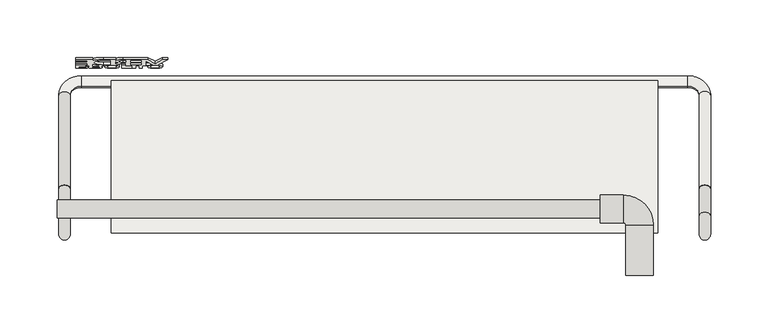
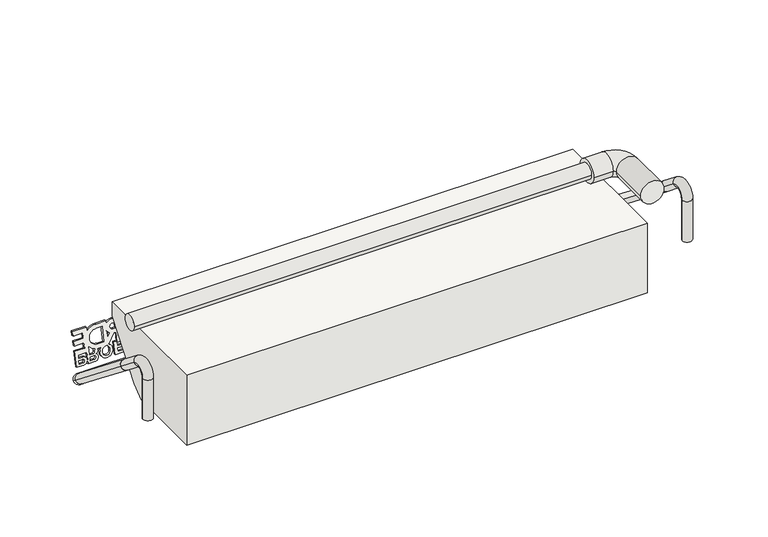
"""IFC4 building model written with IfcOpenShell, lengths in millimetres: covering geometry, panel VP Modulo prova ultima texture : panel VP Modulo prova ultima texture."""

from ifc_helpers import new_model, si_unit, point, frame, frame_2d, origin, place, context, project, spatial, polyline, circle_curve, ellipse_curve, trimmed, segment, composite_curve, outline, extrude, source, transform, mapped, element, save
from ifc_brep_helpers import plane_surface, cylinder_surface, revolved_surface, advanced_brep


def covering_480ba4d3(model_context):
    return source(origin(), model_context, "Body", "SolidModel", [
        extrude(outline(composite_curve([segment(polyline([(34.7220757, 0.0), (58.7996813, 0.0)]), True, "CONTINUOUS"), segment(trimmed(circle_curve(frame_2d((65.064279, 0.602523)), 6.293506), [point((58.7996813, 0.0))], [point((63.4156115, 6.6762462))], False, "CARTESIAN"), True, "CONTINUOUS"), segment(trimmed(circle_curve(frame_2d((65.6666707, 0.6823428)), 6.4026671), [point((63.4156115, 6.6762462))], [point((68.2653756, -5.1692278))], False, "CARTESIAN"), True, "CONTINUOUS"), segment(trimmed(circle_curve(frame_2d((65.2033193, 0.2002614)), 6.1812298), [point((68.2653756, -5.1692278))], [point((64.2093266, -5.9005239))], False, "CARTESIAN"), True, "CONTINUOUS"), segment(polyline([(64.2093266, -5.9005239), (66.3168223, -11.0476864), (75.8016953, -7.1641235), (76.862281, -9.7544046), (66.3136896, -14.073505), (67.4636632, -16.8820993), (78.0122545, -12.5629989), (79.0728401, -15.1532801), (68.5242488, -19.4723804), (70.7348079, -24.8712559), (61.6931831, -28.5733317), (62.6270622, -30.854156), (73.074875, -33.0832316)]), True, "CONTINUOUS"), segment(trimmed(circle_curve(frame_2d((79.2445531, -34.0648779)), 6.247284), [point((73.074875, -33.0832316))], [point((77.6263487, -28.0308102))], False, "CARTESIAN"), True, "CONTINUOUS"), segment(trimmed(circle_curve(frame_2d((79.8774079, -34.0247137)), 6.4026671), [point((77.6263487, -28.0308102))], [point((82.4790997, -39.8749568))], False, "CARTESIAN"), True, "CONTINUOUS"), segment(trimmed(circle_curve(frame_2d((79.4067188, -34.4842118)), 6.2048092), [point((82.4790997, -39.8749568))], [point((77.0112198, -40.2079555))], False, "CARTESIAN"), True, "CONTINUOUS"), segment(polyline([(77.0112198, -40.2079555), (78.1993615, -43.1097685)]), True, "CONTINUOUS"), segment(trimmed(circle_curve(frame_2d((66.5130173, -47.6019204)), 12.5199867), [point((78.1993615, -43.1097685))], [point((78.4709527, -43.8927629))], False, "CARTESIAN"), True, "CONTINUOUS"), segment(polyline([(78.4709527, -43.8927629), (79.5384706, -43.4513167)]), True, "CONTINUOUS"), segment(trimmed(circle_curve(frame_2d((81.1236564, -46.5289179)), 3.4618554), [point((79.5384706, -43.4513167))], [point((83.2640667, -43.8080567))], False, "CARTESIAN"), True, "CONTINUOUS"), segment(trimmed(circle_curve(frame_2d((86.9930545, -44.5041076)), 3.7933939), [point((83.2640667, -43.8080567))], [point((90.5427254, -43.1663205))], False, "CARTESIAN"), True, "CONTINUOUS"), segment(polyline([(90.5427254, -43.1663205), (93.2835774, -49.8603365), (82.734986, -54.1794369), (86.0955187, -62.3869066), (89.2825225, -61.0819941), (87.602256, -56.9782588)]), True, "CONTINUOUS"), segment(trimmed(circle_curve(frame_2d((91.2496311, -55.4763574)), 3.9444966), [point((87.602256, -56.9782588))], [point((87.6394876, -53.8870441))], False, "CARTESIAN"), True, "CONTINUOUS"), segment(trimmed(circle_curve(frame_2d((91.0795377, -55.4029609)), 3.7592483), [point((87.6394876, -53.8870441))], [point((89.8068057, -51.865716))], False, "CARTESIAN"), True, "CONTINUOUS"), segment(trimmed(circle_curve(frame_2d((91.3826275, -55.3791794)), 3.8506675), [point((89.8068057, -51.865716))], [point((94.9638437, -53.9640714))], False, "CARTESIAN"), True, "CONTINUOUS"), segment(polyline([(94.9638437, -53.9640714), (97.7046956, -60.6580874), (83.1186527, -66.6303145), (79.3291228, -57.3750995), (74.3249247, -59.4240587), (78.1144546, -68.6792738), (74.077003, -70.3324005), (70.2874731, -61.0771855), (65.283275, -63.1261447), (69.0728049, -72.3813598), (65.0353533, -74.0344866), (59.5536495, -60.6464545), (63.573194, -59.0006598)]), True, "CONTINUOUS"), segment(trimmed(circle_curve(frame_2d((67.4307018, -47.253167)), 12.364625), [point((63.573194, -59.0006598))], [point((55.9786182, -51.9151121))], False, "CARTESIAN"), True, "CONTINUOUS"), segment(polyline([(55.9786182, -51.9151121), (51.9745896, -42.1360244), (54.8949193, -40.940301)]), True, "CONTINUOUS"), segment(trimmed(circle_curve(frame_2d((56.8950264, -33.2916253)), 7.9058629), [point((54.8949193, -40.940301))], [point((49.6285766, -36.4063284))], False, "CARTESIAN"), True, "CONTINUOUS"), segment(polyline([(49.6285766, -36.4063284), (41.3068641, -16.0821088), (53.1289126, -4.4511801), (36.5446028, -4.4511801), (34.7220757, 0.0)]), True, "CONTINUOUS")], self_intersect=False), holes=[composite_curve([segment(polyline([(91.3698144, -60.2273564), (94.5568181, -58.9224439), (93.0429627, -55.2251363)]), True, "CONTINUOUS"), segment(trimmed(circle_curve(frame_2d((91.4494608, -55.8775925)), 1.7219023), [point((93.0429627, -55.2251363))], [point((89.8559589, -56.5300488))], True, "CARTESIAN"), True, "CONTINUOUS"), segment(polyline([(89.8559589, -56.5300488), (91.3698144, -60.2273564)]), True, "CONTINUOUS")], self_intersect=False), composite_curve([segment(polyline([(77.6536646, -53.2354383), (84.8614042, -50.2842432), (83.4804082, -46.9114199)]), True, "CONTINUOUS"), segment(trimmed(circle_curve(frame_2d((82.0055188, -47.9798171)), 1.8212006), [point((83.4804082, -46.9114199))], [point((81.4459172, -46.2467223))], True, "CARTESIAN"), True, "CONTINUOUS"), segment(polyline([(81.4459172, -46.2467223), (79.005401, -46.7813864)]), True, "CONTINUOUS"), segment(trimmed(circle_curve(frame_2d((66.800009, -47.5936694)), 12.2323913), [point((79.005401, -46.7813864))], [point((77.6536646, -53.2354383))], False, "CARTESIAN"), True, "CONTINUOUS")], self_intersect=False), composite_curve([segment(polyline([(80.0469884, -37.8463889), (81.818283, -37.1211357)]), True, "CONTINUOUS"), segment(trimmed(circle_curve(frame_2d((80.3714599, -33.8224141)), 3.6020635), [point((81.818283, -37.1211357))], [point((79.0874462, -30.4569765))], True, "CARTESIAN"), True, "CONTINUOUS"), segment(polyline([(79.0874462, -30.4569765), (77.318043, -31.1814552)]), True, "CONTINUOUS"), segment(trimmed(circle_curve(frame_2d((78.7640582, -34.4805346)), 3.6020668), [point((77.318043, -31.1814552))], [point((80.0469884, -37.8463889))], True, "CARTESIAN"), True, "CONTINUOUS")], self_intersect=False), composite_curve([segment(polyline([(64.8767089, 4.25008), (63.1073057, 3.5256013)]), True, "CONTINUOUS"), segment(trimmed(circle_curve(frame_2d((64.5533209, 0.2265218)), 3.6020668), [point((63.1073057, 3.5256013))], [point((65.8362511, -3.1393325))], True, "CARTESIAN"), True, "CONTINUOUS"), segment(polyline([(65.8362511, -3.1393325), (67.6075457, -2.4140793)]), True, "CONTINUOUS"), segment(trimmed(circle_curve(frame_2d((66.1607227, 0.8846423)), 3.6020635), [point((67.6075457, -2.4140793))], [point((64.8767089, 4.25008))], True, "CARTESIAN"), True, "CONTINUOUS")], self_intersect=False), composite_curve([segment(polyline([(49.3862172, -14.3776132), (62.966359, -8.8172503), (61.7031824, -5.7321785), (62.543491, -5.3881158)]), True, "CONTINUOUS"), segment(trimmed(circle_curve(frame_2d((65.2914897, 0.489271)), 6.4880792), [point((62.543491, -5.3881158))], [point((60.2929855, -3.647168))], False, "CARTESIAN"), True, "CONTINUOUS"), segment(polyline([(60.2929855, -3.647168), (49.3862172, -14.3776132)]), True, "CONTINUOUS")], self_intersect=False), polyline([(47.5988019, -19.9351412), (50.9593346, -28.1426109), (55.9635327, -26.0936517), (52.603, -17.8861819), (47.5988019, -19.9351412)]), polyline([(60.0009843, -24.4405249), (65.0051824, -22.3915657), (61.6446497, -14.1840959), (56.6404516, -16.2330552), (60.0009843, -24.4405249)]), composite_curve([segment(polyline([(52.6514049, -32.2754703), (53.692025, -34.8169896)]), True, "CONTINUOUS"), segment(trimmed(circle_curve(frame_2d((56.226554, -33.8697215)), 2.7057631), [point((53.692025, -34.8169896))], [point((58.6823172, -32.7337722))], True, "CARTESIAN"), True, "CONTINUOUS"), segment(polyline([(58.6823172, -32.7337722), (57.6557066, -30.2264686), (52.6514049, -32.2754703)]), True, "CONTINUOUS")], self_intersect=False), composite_curve([segment(polyline([(62.0018449, -38.0303841), (66.4600603, -36.2049764), (63.0935891, -35.4866797)]), True, "CONTINUOUS"), segment(trimmed(circle_curve(frame_2d((53.8245829, -33.01461)), 9.5929977), [point((63.0935891, -35.4866797))], [point((62.0018449, -38.0303841))], False, "CARTESIAN"), True, "CONTINUOUS")], self_intersect=False), composite_curve([segment(polyline([(57.7042151, -44.6157146), (60.0160697, -50.2619853)]), True, "CONTINUOUS"), segment(trimmed(circle_curve(frame_2d((67.1061304, -47.5504315)), 7.5908816), [point((60.0160697, -50.2619853))], [point((74.0619175, -44.5109401))], True, "CARTESIAN"), True, "CONTINUOUS"), segment(polyline([(74.0619175, -44.5109401), (71.7500629, -38.8646693), (57.7042151, -44.6157146)]), True, "CONTINUOUS")], self_intersect=False), composite_curve([segment(polyline([(86.9486961, -49.4296056), (90.1356999, -48.124693), (88.6218444, -44.4273854)]), True, "CONTINUOUS"), segment(trimmed(circle_curve(frame_2d((87.0283426, -45.0798417)), 1.7219023), [point((88.6218444, -44.4273854))], [point((85.4348406, -45.7322979))], True, "CARTESIAN"), True, "CONTINUOUS"), segment(polyline([(85.4348406, -45.7322979), (86.9486961, -49.4296056)]), True, "CONTINUOUS")], self_intersect=False)]), frame((-175.3240629, 210.3688908, 531.9514609), z_axis=(0.0, -0.9769248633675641, 0.21358326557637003), x_axis=(-0.3789159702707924, -0.19765659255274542, -0.9040766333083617)), (0.0, 0.0, 1.0), 2.0),
        extrude(outline(polyline([(76.2116946, -23.2064962), (79.3986984, -21.9015837), (77.1881392, -16.5027082), (79.2754311, -15.6480706), (82.5465758, -23.6372272), (70.9744162, -28.3754256), (69.9138306, -25.7851445), (74.1244027, -24.0611338), (71.9138436, -18.6622584), (74.0011355, -17.8076208), (76.2116946, -23.2064962)])), frame((-175.3240629, 210.3688908, 531.9514609), z_axis=(0.0, -0.9769248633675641, 0.21358326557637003), x_axis=(-0.3789159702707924, -0.19765659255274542, -0.9040766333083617)), (0.0, 0.0, 1.0), 2.0),
        advanced_brep(
        [(-284.4808119, 63.5015434, 595.6614448), (-284.4808119, 79.5015434, 595.6614448), (187.7808119, 63.5015434, 595.6614448), (187.7808119, 79.5015434, 595.6614448), (187.7808119, 59.5015434, 595.6614448), (187.7808119, 83.5015434, 595.6614448), (207.7808119, 59.5015434, 595.6614448), (207.7808119, 83.5015434, 595.6614448), (209.7808119, 57.5015434, 595.6614448), (233.7808119, 57.5015434, 595.6614448), (209.7808119, 13.5015434, 595.6614448), (233.7808119, 13.5015434, 595.6614448)],
        [
            (0, 1, circle_curve(frame((-284.4808119, 71.5015434, 595.6614448), z_axis=(-1.0, 0.0, 0.0), x_axis=(0.0, 1.0, 0.0)), 8.0)),
            (1, 0, circle_curve(frame((-284.4808119, 71.5015434, 595.6614448), z_axis=(-1.0, 0.0, 0.0), x_axis=(0.0, 1.0, 0.0)), 8.0)),
            (0, 2),
            (2, 3, circle_curve(frame((187.7808119, 71.5015434, 595.6614448), z_axis=(-1.0, 0.0, 0.0), x_axis=(0.0, 1.0, 0.0)), 8.0)),
            (3, 1),
            (3, 2, circle_curve(frame((187.7808119, 71.5015434, 595.6614448), z_axis=(-1.0, 0.0, 0.0), x_axis=(0.0, 1.0, 0.0)), 8.0)),
            (4, 5, circle_curve(frame((187.7808119, 71.5015434, 595.6614448), z_axis=(-1.0, 0.0, 0.0), x_axis=(0.0, 1.0, 0.0)), 12.0)),
            (5, 4, circle_curve(frame((187.7808119, 71.5015434, 595.6614448), z_axis=(-1.0, 0.0, 0.0), x_axis=(0.0, 1.0, 0.0)), 12.0)),
            (4, 6),
            (6, 7, circle_curve(frame((207.7808119, 71.5015434, 595.6614448), z_axis=(-1.0, 0.0, 0.0), x_axis=(0.0, 1.0, 0.0)), 12.0)),
            (7, 5),
            (7, 6, circle_curve(frame((207.7808119, 71.5015434, 595.6614448), z_axis=(-1.0, 0.0, 0.0), x_axis=(0.0, 1.0, 0.0)), 12.0)),
            (6, 8, circle_curve(frame((207.7808119, 57.5015434, 595.6614448), z_axis=(0.0, 0.0, -1.0), x_axis=(0.0, 1.0, 0.0)), 2.0)),
            (8, 9, circle_curve(frame((221.7808119, 57.5015434, 595.6614448), z_axis=(0.0, 1.0, 0.0), x_axis=(1.0, 0.0, 0.0)), 12.0)),
            (9, 7, circle_curve(frame((207.7808119, 57.5015434, 595.6614448), z_axis=(0.0, 0.0, 1.0), x_axis=(0.0, 1.0, 0.0)), 26.0)),
            (9, 8, circle_curve(frame((221.7808119, 57.5015434, 595.6614448), z_axis=(0.0, 1.0, 0.0), x_axis=(1.0, 0.0, 0.0)), 12.0)),
            (10, 11, circle_curve(frame((221.7808119, 13.5015434, 595.6614448), z_axis=(0.0, -1.0, 0.0), x_axis=(1.0, 0.0, 0.0)), 12.0)),
            (11, 10, circle_curve(frame((221.7808119, 13.5015434, 595.6614448), z_axis=(0.0, -1.0, 0.0), x_axis=(1.0, 0.0, 0.0)), 12.0)),
            (8, 10),
            (11, 9),
        ],
        [
            plane_surface(frame((-284.4808119, 63.5015434, 595.6614448), z_axis=(-1.0, 0.0, 0.0), x_axis=(0.0, 0.0, 1.0))),
            cylinder_surface(frame((-284.4808119, 71.5015434, 595.6614448), z_axis=(-1.0, 0.0, 0.0), x_axis=(0.0, 1.0, 0.0)), 8.0),
            plane_surface(frame((187.7808119, 63.5015434, 595.6614448), z_axis=(-1.0, 0.0, 0.0), x_axis=(0.0, 0.0, 1.0))),
            cylinder_surface(frame((187.7808119, 71.5015434, 595.6614448), z_axis=(-1.0, 0.0, 0.0), x_axis=(0.0, 1.0, 0.0)), 12.0),
            revolved_surface(trimmed(ellipse_curve(frame((207.7808119, 71.5015434, 595.6614448), z_axis=(-1.0, 0.0, 0.0), x_axis=(0.0, 1.0, 0.0)), 12.0, 12.0), [point((207.7808119, 59.5015434, 595.6614448))], [point((207.7808119, 83.5015434, 595.6614448))], True, "CARTESIAN"), (207.7808119, 57.5015434, 595.6614448), (0.0, 0.0, -1.0)),
            revolved_surface(trimmed(ellipse_curve(frame((207.7808119, 71.5015434, 595.6614448), z_axis=(-1.0, 0.0, 0.0), x_axis=(0.0, 1.0, 0.0)), 12.0, 12.0), [point((207.7808119, 83.5015434, 595.6614448))], [point((207.7808119, 59.5015434, 595.6614448))], True, "CARTESIAN"), (207.7808119, 57.5015434, 595.6614448), (0.0, 0.0, -1.0)),
            plane_surface(frame((213.7808119, 13.5015434, 595.6614448), z_axis=(0.0, -1.0, 0.0), x_axis=(0.0, 0.0, 1.0))),
            cylinder_surface(frame((221.7808119, 57.5015434, 595.6614448), z_axis=(0.0, 1.0, 0.0), x_axis=(1.0, 0.0, 0.0)), 12.0),
        ],
        [
            (0, [[1, 2]]),
            (1, [[-1, 3, 4, 5]]),
            (1, [[-2, -5, 6, -3]]),
            (2, [[7, 8], [-4, -6]]),
            (3, [[-7, 9, 10, 11]]),
            (3, [[-8, -11, 12, -9]]),
            (4, [[-10, 13, 14, 15]]),
            (5, [[-12, -15, 16, -13]]),
            (6, [[17, 18]]),
            (7, [[-14, 19, -18, 20]]),
            (7, [[-16, -20, -17, -19]]),
        ],
    ),
        advanced_brep(
        [(283.4808119, 89.2250572, 536.4633866), (273.4808119, 89.2251428, 536.4634946), (283.4808119, 170.6491384, 471.9435416), (273.4808119, 170.6492239, 471.9436496), (263.4808119, 178.4869122, 465.7331229), (263.4808119, 186.324515, 459.5224882), (-263.4808119, 186.324515, 459.5224882), (-263.4808119, 178.4869122, 465.7331229), (-273.4808119, 170.6492239, 471.9436496), (-283.4808119, 170.6491384, 471.9435416), (-283.4808119, 89.2250494, 536.4633928), (-273.4808119, 89.225135, 536.4635008)],
        [
            (0, 1, circle_curve(frame((278.4808119, 89.2250572, 536.4633866), z_axis=(0.0, -0.7837688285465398, 0.6210526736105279), x_axis=(1.0, 0.0, 0.0)), 5.0)),
            (1, 0, circle_curve(frame((278.4808119, 89.2250572, 536.4633866), z_axis=(0.0, -0.7837688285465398, 0.6210526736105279), x_axis=(1.0, 0.0, 0.0)), 5.0)),
            (0, 2),
            (2, 3, circle_curve(frame((278.4808119, 170.6491384, 471.9435416), z_axis=(0.0, -0.7837688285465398, 0.6210526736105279), x_axis=(1.0, 0.0, 0.0)), 5.0)),
            (3, 1),
            (3, 2, circle_curve(frame((278.4808119, 170.6491384, 471.9435416), z_axis=(0.0, -0.7837688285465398, 0.6210526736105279), x_axis=(1.0, 0.0, 0.0)), 5.0)),
            (4, 3, circle_curve(frame((263.4808119, 170.6492239, 471.9436496), z_axis=(0.0, -0.6210526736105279, -0.7837688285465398), x_axis=(1.0, 0.0, 0.0)), 10.0)),
            (2, 5, circle_curve(frame((263.4808119, 170.6491384, 471.9435416), z_axis=(0.0, 0.6210526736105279, 0.7837688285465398), x_axis=(1.0, 0.0, 0.0)), 20.0)),
            (5, 4, circle_curve(frame((263.4808119, 182.4056708, 462.6277515), z_axis=(1.0, 0.0, 0.0), x_axis=(0.0, 0.7837688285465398, -0.6210526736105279)), 5.0)),
            (4, 5, circle_curve(frame((263.4808119, 182.4056708, 462.6277515), z_axis=(1.0, 0.0, 0.0), x_axis=(0.0, 0.7837688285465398, -0.6210526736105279)), 5.0)),
            (5, 6),
            (6, 7, circle_curve(frame((-263.4808119, 182.4056708, 462.6277515), z_axis=(1.0, 0.0, 0.0), x_axis=(0.0, 0.7837688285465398, -0.6210526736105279)), 5.0)),
            (7, 4),
            (7, 6, circle_curve(frame((-263.4808119, 182.4056708, 462.6277515), z_axis=(1.0, 0.0, 0.0), x_axis=(0.0, 0.7837688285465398, -0.6210526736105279)), 5.0)),
            (8, 7, circle_curve(frame((-263.4808119, 170.6492239, 471.9436496), z_axis=(0.0, -0.6210526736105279, -0.7837688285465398), x_axis=(0.0, 0.7837688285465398, -0.6210526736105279)), 10.0)),
            (6, 9, circle_curve(frame((-263.4808119, 170.6491384, 471.9435416), z_axis=(0.0, 0.6210526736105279, 0.7837688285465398), x_axis=(0.0, 0.7837688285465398, -0.6210526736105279)), 20.0)),
            (9, 8, circle_curve(frame((-278.4808119, 170.6491384, 471.9435416), z_axis=(0.0, 0.7837688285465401, -0.6210526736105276), x_axis=(-1.0000000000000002, 0.0, 0.0)), 5.0)),
            (8, 9, circle_curve(frame((-278.4808119, 170.6491384, 471.9435416), z_axis=(0.0, 0.7837688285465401, -0.6210526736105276), x_axis=(-1.0000000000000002, 0.0, 0.0)), 5.0)),
            (10, 11, circle_curve(frame((-278.4808119, 89.2250494, 536.4633928), z_axis=(0.0, -0.7837688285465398, 0.6210526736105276), x_axis=(-1.0, 0.0, 0.0)), 5.0)),
            (11, 10, circle_curve(frame((-278.4808119, 89.2250494, 536.4633928), z_axis=(0.0, -0.7837688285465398, 0.6210526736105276), x_axis=(-1.0, 0.0, 0.0)), 5.0)),
            (9, 10),
            (11, 8),
        ],
        [
            plane_surface(frame((273.4808119, 92.3304015, 540.3823329), z_axis=(0.0, -0.7837688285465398, 0.6210526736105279), x_axis=(0.0, -0.6210526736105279, -0.7837688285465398))),
            cylinder_surface(frame((278.4808119, 89.2250572, 536.4633866), z_axis=(0.0, -0.7837688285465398, 0.6210526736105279), x_axis=(1.0, 0.0, 0.0)), 5.0),
            revolved_surface(trimmed(ellipse_curve(frame((278.4808119, 170.6491384, 471.9435416), z_axis=(0.0, -0.7837688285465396, 0.6210526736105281), x_axis=(1.0, 0.0, 0.0)), 5.0, 5.0), [point((283.4808119, 170.6491384, 471.9435416))], [point((273.4808119, 170.6492239, 471.9436496))], True, "CARTESIAN"), (263.4808119, 173.7544827, 475.8624879), (0.0, 0.6210526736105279, 0.7837688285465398)),
            revolved_surface(trimmed(ellipse_curve(frame((278.4808119, 170.6491384, 471.9435416), z_axis=(0.0, -0.7837688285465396, 0.6210526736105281), x_axis=(1.0, 0.0, 0.0)), 5.0, 5.0), [point((273.4808119, 170.6492239, 471.9436496))], [point((283.4808119, 170.6491384, 471.9435416))], True, "CARTESIAN"), (263.4808119, 173.7544827, 475.8624879), (0.0, 0.6210526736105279, 0.7837688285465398)),
            cylinder_surface(frame((263.4808119, 182.4056708, 462.6277515), z_axis=(1.0000000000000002, 0.0, 0.0), x_axis=(0.0, 0.7837688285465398, -0.6210526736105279)), 5.0),
            revolved_surface(trimmed(ellipse_curve(frame((-263.4808119, 182.4056708, 462.6277515), z_axis=(1.0000000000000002, 0.0, 0.0), x_axis=(0.0, 0.7837688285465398, -0.6210526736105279)), 5.0, 5.0), [point((-263.4808119, 186.324515, 459.5224882))], [point((-263.4808119, 178.4869122, 465.7331229))], True, "CARTESIAN"), (-263.4808119, 173.7544827, 475.8624879), (0.0, 0.6210526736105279, 0.7837688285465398)),
            revolved_surface(trimmed(ellipse_curve(frame((-263.4808119, 182.4056708, 462.6277515), z_axis=(1.0000000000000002, 0.0, 0.0), x_axis=(0.0, 0.7837688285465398, -0.6210526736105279)), 5.0, 5.0), [point((-263.4808119, 178.4869122, 465.7331229))], [point((-263.4808119, 186.324515, 459.5224882))], True, "CARTESIAN"), (-263.4808119, 173.7544827, 475.8624879), (0.0, 0.6210526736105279, 0.7837688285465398)),
            plane_surface(frame((-273.4808119, 92.3303937, 540.3823391), z_axis=(0.0, -0.7837688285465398, 0.6210526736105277), x_axis=(0.0, -0.6210526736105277, -0.7837688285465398))),
            cylinder_surface(frame((-278.4808119, 170.6491384, 471.9435416), z_axis=(0.0, 0.7837688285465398, -0.6210526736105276), x_axis=(-1.0, 0.0, 0.0)), 5.0),
        ],
        [
            (0, [[1, 2]]),
            (1, [[-1, 3, 4, 5]]),
            (1, [[-2, -5, 6, -3]]),
            (2, [[7, -4, 8, 9]]),
            (3, [[-8, -6, -7, 10]]),
            (4, [[-9, 11, 12, 13]]),
            (4, [[-10, -13, 14, -11]]),
            (5, [[15, -12, 16, 17]]),
            (6, [[-16, -14, -15, 18]]),
            (7, [[19, 20]]),
            (8, [[-17, 21, -20, 22]]),
            (8, [[-18, -22, -19, -21]]),
        ],
    ),
        advanced_brep(
        [(-273.4808119, 89.225135, 536.4635008), (-283.4808119, 89.225135, 536.4635008), (-283.4808119, 65.7120701, 555.095081), (-273.4808119, 65.7120701, 555.095081), (-273.4808119, 49.5015434, 547.2573927), (-283.4808119, 49.5015434, 547.2573927), (-273.4808119, 49.5015434, 502.9552474), (-283.4808119, 49.5015434, 502.9552474)],
        [
            (0, 1, circle_curve(frame((-278.4808119, 89.225135, 536.4635008), z_axis=(0.0, 0.7837688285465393, -0.6210526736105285), x_axis=(-1.0, 0.0, 0.0)), 5.0)),
            (1, 0, circle_curve(frame((-278.4808119, 89.225135, 536.4635008), z_axis=(0.0, 0.7837688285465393, -0.6210526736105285), x_axis=(-1.0, 0.0, 0.0)), 5.0)),
            (1, 2),
            (2, 3, circle_curve(frame((-278.4808119, 65.7120701, 555.095081), z_axis=(0.0, 0.7837688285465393, -0.6210526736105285), x_axis=(-1.0, 0.0, 0.0)), 5.0)),
            (3, 0),
            (3, 2, circle_curve(frame((-278.4808119, 65.7120701, 555.095081), z_axis=(0.0, 0.7837688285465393, -0.6210526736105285), x_axis=(-1.0, 0.0, 0.0)), 5.0)),
            (4, 3, circle_curve(frame((-273.4808119, 59.5015434, 547.2573927), z_axis=(-1.0, 0.0, 0.0), x_axis=(0.0, 0.6210526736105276, 0.78376882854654)), 10.0)),
            (2, 5, circle_curve(frame((-283.4808119, 59.5015434, 547.2573927), z_axis=(1.0, 0.0, 0.0), x_axis=(0.0, 0.6210526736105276, 0.78376882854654)), 10.0)),
            (5, 4, circle_curve(frame((-278.4808119, 49.5015434, 547.2573927), z_axis=(0.0, 0.0, 1.0), x_axis=(-1.0, 0.0, 0.0)), 5.0)),
            (4, 5, circle_curve(frame((-278.4808119, 49.5015434, 547.2573927), z_axis=(0.0, 0.0, 1.0), x_axis=(-1.0, 0.0, 0.0)), 5.0)),
            (6, 7, circle_curve(frame((-278.4808119, 49.5015434, 502.9552474), z_axis=(0.0, 0.0, -1.0), x_axis=(-1.0, 0.0, 0.0)), 5.0)),
            (7, 6, circle_curve(frame((-278.4808119, 49.5015434, 502.9552474), z_axis=(0.0, 0.0, -1.0), x_axis=(-1.0, 0.0, 0.0)), 5.0)),
            (5, 7),
            (6, 4),
        ],
        [
            plane_surface(frame((-273.4808119, 89.225135, 536.4635008), z_axis=(0.0, 0.7837688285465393, -0.6210526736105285), x_axis=(-1.0, 0.0, 0.0))),
            cylinder_surface(frame((-278.4808119, 89.225135, 536.4635008), z_axis=(0.0, 0.7837688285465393, -0.6210526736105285), x_axis=(-1.0, 0.0, 0.0)), 5.0),
            revolved_surface(trimmed(ellipse_curve(frame((-278.4808119, 65.7120701, 555.095081), z_axis=(0.0, 0.78376882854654, -0.6210526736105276), x_axis=(-1.0, 0.0, 0.0)), 5.0, 5.0), [point((-283.4808119, 65.7120701, 555.095081))], [point((-273.4808119, 65.7120701, 555.095081))], True, "CARTESIAN"), (-273.4808119, 59.5015434, 547.2573927), (1.0, 0.0, 0.0)),
            revolved_surface(trimmed(ellipse_curve(frame((-278.4808119, 65.7120701, 555.095081), z_axis=(0.0, 0.78376882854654, -0.6210526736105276), x_axis=(-1.0, 0.0, 0.0)), 5.0, 5.0), [point((-273.4808119, 65.7120701, 555.095081))], [point((-283.4808119, 65.7120701, 555.095081))], True, "CARTESIAN"), (-273.4808119, 59.5015434, 547.2573927), (1.0, 0.0, 0.0)),
            plane_surface(frame((-273.4808119, 49.5015434, 502.9552474), z_axis=(0.0, 0.0, -1.0), x_axis=(-1.0, 0.0, 0.0))),
            cylinder_surface(frame((-278.4808119, 49.5015434, 547.2573927), z_axis=(0.0, 0.0, 1.0), x_axis=(-1.0, 0.0, 0.0)), 5.0),
        ],
        [
            (0, [[1, 2]]),
            (1, [[-2, 3, 4, 5]]),
            (1, [[-1, -5, 6, -3]]),
            (2, [[7, -4, 8, 9]]),
            (3, [[-8, -6, -7, 10]]),
            (4, [[11, 12]]),
            (5, [[-9, 13, -11, 14]]),
            (5, [[-10, -14, -12, -13]]),
        ],
    ),
        advanced_brep(
        [(273.4808119, 89.2251242, 536.4634711), (283.4808119, 89.2251242, 536.4634711), (273.4808119, 65.7120779, 555.0950748), (283.4808119, 65.7120779, 555.0950748), (283.4808119, 49.5015434, 547.2573927), (273.4808119, 49.5015434, 547.2573927), (273.4808119, 49.5015434, 502.9552474), (283.4808119, 49.5015434, 502.9552474)],
        [
            (0, 1, circle_curve(frame((278.4808119, 89.2251242, 536.4634711), z_axis=(0.0, 0.7837682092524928, -0.621053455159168), x_axis=(1.0, 0.0, 0.0)), 5.0)),
            (1, 0, circle_curve(frame((278.4808119, 89.2251242, 536.4634711), z_axis=(0.0, 0.7837682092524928, -0.621053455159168), x_axis=(1.0, 0.0, 0.0)), 5.0)),
            (0, 2),
            (2, 3, circle_curve(frame((278.4808119, 65.7120779, 555.0950748), z_axis=(0.0, 0.7837682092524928, -0.621053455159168), x_axis=(1.0, 0.0, 0.0)), 5.0)),
            (3, 1),
            (3, 2, circle_curve(frame((278.4808119, 65.7120779, 555.0950748), z_axis=(0.0, 0.7837682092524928, -0.621053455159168), x_axis=(1.0, 0.0, 0.0)), 5.0)),
            (4, 3, circle_curve(frame((283.4808119, 59.5015434, 547.2573927), z_axis=(-1.0, 0.0, 0.0), x_axis=(0.0, 0.6210534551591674, 0.7837682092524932)), 10.0)),
            (2, 5, circle_curve(frame((273.4808119, 59.5015434, 547.2573927), z_axis=(1.0, 0.0, 0.0), x_axis=(0.0, 0.6210534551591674, 0.7837682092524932)), 10.0)),
            (5, 4, circle_curve(frame((278.4808119, 49.5015434, 547.2573927), z_axis=(0.0, 0.0, 1.0), x_axis=(1.0, 0.0, 0.0)), 5.0)),
            (4, 5, circle_curve(frame((278.4808119, 49.5015434, 547.2573927), z_axis=(0.0, 0.0, 1.0), x_axis=(1.0, 0.0, 0.0)), 5.0)),
            (6, 7, circle_curve(frame((278.4808119, 49.5015434, 502.9552474), z_axis=(0.0, 0.0, -1.0), x_axis=(1.0, 0.0, 0.0)), 5.0)),
            (7, 6, circle_curve(frame((278.4808119, 49.5015434, 502.9552474), z_axis=(0.0, 0.0, -1.0), x_axis=(1.0, 0.0, 0.0)), 5.0)),
            (5, 6),
            (7, 4),
        ],
        [
            plane_surface(frame((273.4808119, 89.2251242, 536.4634711), z_axis=(0.0, 0.7837682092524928, -0.621053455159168), x_axis=(1.0, 0.0, 0.0))),
            cylinder_surface(frame((278.4808119, 89.2251242, 536.4634711), z_axis=(0.0, 0.7837682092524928, -0.621053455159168), x_axis=(1.0, 0.0, 0.0)), 5.0),
            revolved_surface(trimmed(ellipse_curve(frame((278.4808119, 65.7120779, 555.0950748), z_axis=(0.0, 0.7837682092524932, -0.6210534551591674), x_axis=(1.0, 0.0, 0.0)), 5.0, 5.0), [point((273.4808119, 65.7120779, 555.0950748))], [point((283.4808119, 65.7120779, 555.0950748))], True, "CARTESIAN"), (273.4808119, 59.5015434, 547.2573927), (1.0, 0.0, 0.0)),
            revolved_surface(trimmed(ellipse_curve(frame((278.4808119, 65.7120779, 555.0950748), z_axis=(0.0, 0.7837682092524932, -0.6210534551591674), x_axis=(1.0, 0.0, 0.0)), 5.0, 5.0), [point((283.4808119, 65.7120779, 555.0950748))], [point((273.4808119, 65.7120779, 555.0950748))], True, "CARTESIAN"), (273.4808119, 59.5015434, 547.2573927), (1.0, 0.0, 0.0)),
            plane_surface(frame((273.4808119, 49.5015434, 502.9552474), z_axis=(0.0, 0.0, -1.0), x_axis=(1.0, 0.0, 0.0))),
            cylinder_surface(frame((278.4808119, 49.5015434, 547.2573927), z_axis=(0.0, 0.0, 1.0), x_axis=(1.0, 0.0, 0.0)), 5.0),
        ],
        [
            (0, [[1, 2]]),
            (1, [[-1, 3, 4, 5]]),
            (1, [[-2, -5, 6, -3]]),
            (2, [[7, -4, 8, 9]]),
            (3, [[-8, -6, -7, 10]]),
            (4, [[11, 12]]),
            (5, [[-9, 13, -12, 14]]),
            (5, [[-10, -14, -11, -13]]),
        ],
    ),
        extrude(outline(polyline([(132.1625373, 458.0017812), (50.5015434, 458.0017812), (50.5015434, 534.0017812), (183.4941844, 534.0017812), (183.4941844, 518.335058), (143.8388149, 468.2899627), (132.1625373, 458.0017812)])), frame((-237.7808119, 0.0, 0.0), z_axis=(1.0, 0.0, 0.0), x_axis=(0.0, 1.0, 0.0)), (0.0, 0.0, 1.0), 475.5616238),
    ])


if __name__ == "__main__":
    model = new_model("IFC4")
    model_context = context("Model", 3, world=origin())
    ifc_project = project(units=[si_unit("LENGTHUNIT", "METRE", prefix="MILLI")], contexts=[model_context])
    site = spatial("IfcSite", under=ifc_project)
    building = spatial("IfcBuilding", under=site)
    placement = place(None, origin())
    covering_shape = covering_480ba4d3(model_context)
    element("IfcCovering", 1, ObjectType="panel VP Modulo prova ultima texture : panel VP Modulo prova ultima texture", at=placement, inside=building, context=model_context, shape_type="MappedRepresentation", body=[
        mapped(covering_shape, transform((0.0, 0.0, 0.0), x_axis=(1.0, 0.0, 0.0), y_axis=(0.0, 1.0, 0.0), z_axis=(0.0, 0.0, 1.0))),
    ])
    save(model, "model.ifc")
